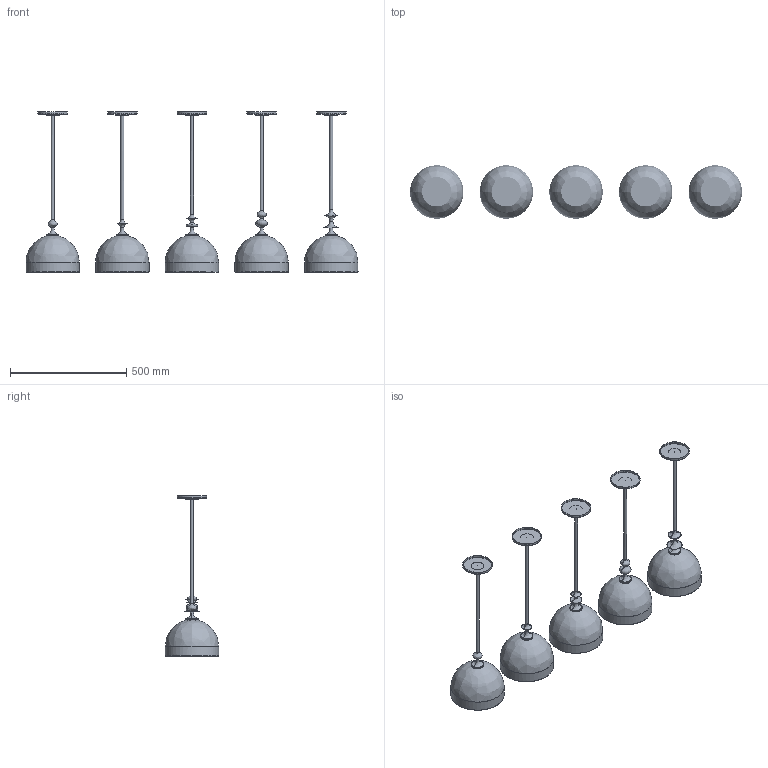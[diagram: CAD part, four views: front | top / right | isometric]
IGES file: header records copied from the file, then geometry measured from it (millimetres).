
Global section: file name: /Users/danielszollosi/Documents/SkLO/Sklo.com/3D models/WEB 3D Models/SkLO_AvroKO_ElizabethIPendant_3D_LT621-LT625.igs; native system: Rhinoceros ( Dec  3 2024 ); preprocessor: Trout Lake IGES 012 Dec  3 2024; date: 250805.155805; units: millimetre
Bounding box: 1430 x 229.91 x 689.57 mm (x, y, z)
Surface area: 1980930.3 mm2 (no closed solid volume)
Topology: 0 solids, 0 shells, 721 faces, 10849 edges, 10285 vertices
Faces by surface type: bspline 721
